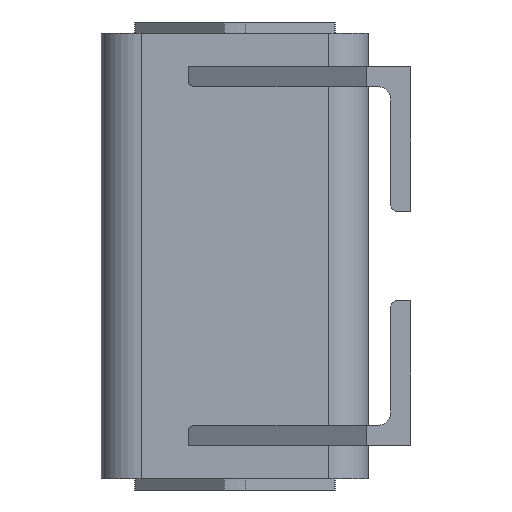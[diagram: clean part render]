
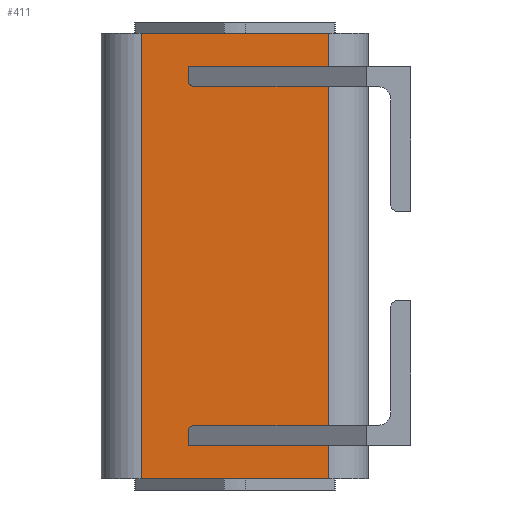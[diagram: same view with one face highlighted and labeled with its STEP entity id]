
A CAD part, front view. The second image highlights one B-rep face of the part: STEP entity #411.
In plain terms, the highlighted planar face has unit normal (0, -1, 0).
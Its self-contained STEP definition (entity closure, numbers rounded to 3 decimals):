
#346=CARTESIAN_POINT('',(42.,-60.,200.0));
#347=VERTEX_POINT('',#346);
#355=CARTESIAN_POINT('',(42.,-60.,0.0));
#356=VERTEX_POINT('',#355);
#357=CARTESIAN_POINT('',(42.,-60.,0.0));
#358=DIRECTION('',(0.0,0.0,1.0));
#359=VECTOR('',#358,200.0);
#360=LINE('',#357,#359);
#361=EDGE_CURVE('',#356,#347,#360,.T.);
#381=CARTESIAN_POINT('',(42.,-60.,0.0));
#382=DIRECTION('',(0.0,-1.0,0.0));
#383=DIRECTION('',(0.0,0.0,-1.0));
#384=AXIS2_PLACEMENT_3D('',#381,#382,#383);
#385=PLANE('',#384);
#386=CARTESIAN_POINT('',(-42.,-60.,200.0));
#387=VERTEX_POINT('',#386);
#388=CARTESIAN_POINT('',(42.,-60.,200.0));
#389=DIRECTION('',(-1.0,0.0,0.0));
#390=VECTOR('',#389,84.);
#391=LINE('',#388,#390);
#392=EDGE_CURVE('',#347,#387,#391,.T.);
#393=ORIENTED_EDGE('',*,*,#392,.T.);
#394=CARTESIAN_POINT('',(-42.,-60.,0.0));
#395=VERTEX_POINT('',#394);
#396=CARTESIAN_POINT('',(-42.,-60.,0.0));
#397=DIRECTION('',(0.0,0.0,1.0));
#398=VECTOR('',#397,200.0);
#399=LINE('',#396,#398);
#400=EDGE_CURVE('',#395,#387,#399,.T.);
#401=ORIENTED_EDGE('',*,*,#400,.F.);
#402=CARTESIAN_POINT('',(-42.,-60.,0.0));
#403=DIRECTION('',(1.0,0.0,0.0));
#404=VECTOR('',#403,84.);
#405=LINE('',#402,#404);
#406=EDGE_CURVE('',#395,#356,#405,.T.);
#407=ORIENTED_EDGE('',*,*,#406,.T.);
#408=ORIENTED_EDGE('',*,*,#361,.T.);
#409=EDGE_LOOP('',(#393,#401,#407,#408));
#410=FACE_OUTER_BOUND('',#409,.T.);
#411=ADVANCED_FACE('',(#410),#385,.T.);
